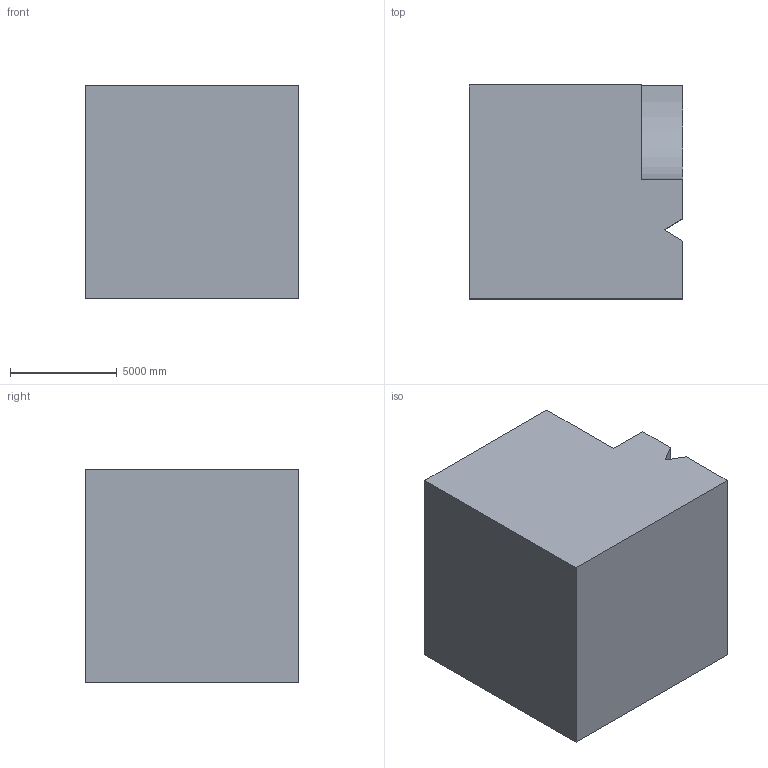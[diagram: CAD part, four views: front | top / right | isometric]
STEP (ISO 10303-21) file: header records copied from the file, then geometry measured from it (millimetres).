
FILE_DESCRIPTION (( 'STEP AP203' ), '1' );
FILE_NAME ('107.STEP', '2022-07-28T13:37:57', ( 'user' ), ( '' ), 'SwSTEP 2.0', 'SolidWorks 2021', '' );
FILE_SCHEMA (( 'CONFIG_CONTROL_DESIGN' ));
Length unit declared in the file: centimetre
Products named in the file (1): 107
Bounding box: 10000 x 10000 x 10000 mm (x, y, z)
Volume: 965720627528.5 mm3; surface area: 605356803 mm2
Topology: 1 solids, 1 shells, 11 faces, 27 edges, 18 vertices
Faces by surface type: plane 10, cylinder 1
Entity records: 400 total; most frequent: CARTESIAN_POINT 57, ORIENTED_EDGE 54, DIRECTION 53, EDGE_CURVE 27, VECTOR 25, LINE 25, VERTEX_POINT 18, AXIS2_PLACEMENT_3D 14
